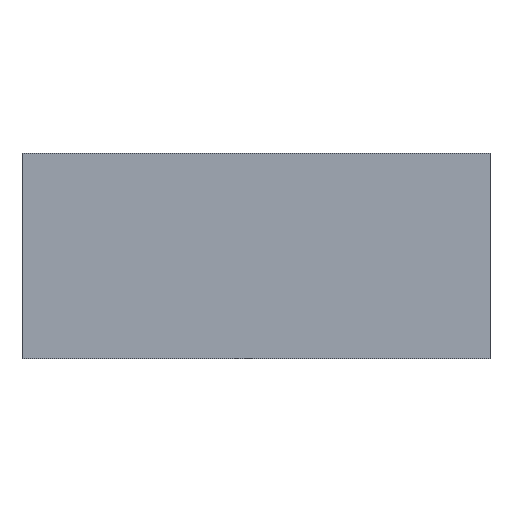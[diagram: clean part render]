
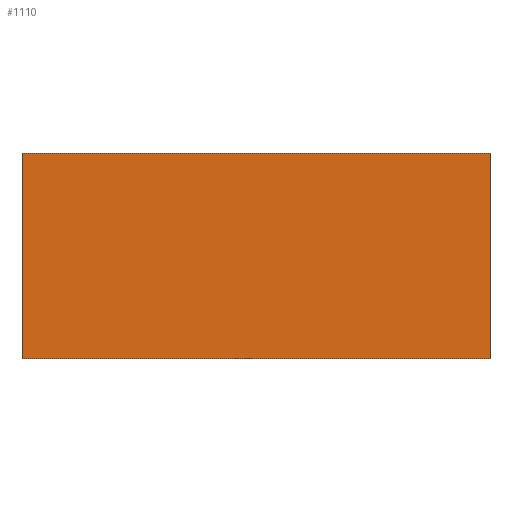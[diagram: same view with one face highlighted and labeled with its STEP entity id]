
A CAD part, front view. The second image highlights one B-rep face of the part: STEP entity #1110.
In plain terms, the highlighted planar face has unit normal (0, -1, 0).
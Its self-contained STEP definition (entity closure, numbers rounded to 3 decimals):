
#32 = PLANE('',#33);
#33 = AXIS2_PLACEMENT_3D('',#34,#35,#36);
#34 = CARTESIAN_POINT('',(-8.5,-5.,-14.));
#35 = DIRECTION('',(1.,0.,-0.));
#36 = DIRECTION('',(0.,0.,1.));
#57 = VERTEX_POINT('',#58);
#58 = CARTESIAN_POINT('',(-8.5,-5.,-11.8));
#72 = PLANE('',#73);
#73 = AXIS2_PLACEMENT_3D('',#74,#75,#76);
#74 = CARTESIAN_POINT('',(-8.5,-5.,-11.8));
#75 = DIRECTION('',(0.,0.,1.));
#76 = DIRECTION('',(1.,0.,-0.));
#84 = EDGE_CURVE('',#85,#57,#87,.T.);
#85 = VERTEX_POINT('',#86);
#86 = CARTESIAN_POINT('',(-8.5,-5.,-14.));
#87 = SURFACE_CURVE('',#88,(#92,#99),.PCURVE_S1.);
#88 = LINE('',#89,#90);
#89 = CARTESIAN_POINT('',(-8.5,-5.,-14.));
#90 = VECTOR('',#91,1.);
#91 = DIRECTION('',(0.,0.,1.));
#92 = PCURVE('',#32,#93);
#93 = DEFINITIONAL_REPRESENTATION('',(#94),#98);
#94 = LINE('',#95,#96);
#95 = CARTESIAN_POINT('',(0.,0.));
#96 = VECTOR('',#97,1.);
#97 = DIRECTION('',(1.,0.));
#98 = ( GEOMETRIC_REPRESENTATION_CONTEXT(2) 
PARAMETRIC_REPRESENTATION_CONTEXT() REPRESENTATION_CONTEXT('2D SPACE',''
  ) );
#99 = PCURVE('',#100,#105);
#100 = PLANE('',#101);
#101 = AXIS2_PLACEMENT_3D('',#102,#103,#104);
#102 = CARTESIAN_POINT('',(-8.5,-5.,-14.));
#103 = DIRECTION('',(-0.,1.,0.));
#104 = DIRECTION('',(0.,0.,1.));
#105 = DEFINITIONAL_REPRESENTATION('',(#106),#110);
#106 = LINE('',#107,#108);
#107 = CARTESIAN_POINT('',(0.,0.));
#108 = VECTOR('',#109,1.);
#109 = DIRECTION('',(1.,0.));
#110 = ( GEOMETRIC_REPRESENTATION_CONTEXT(2) 
PARAMETRIC_REPRESENTATION_CONTEXT() REPRESENTATION_CONTEXT('2D SPACE',''
  ) );
#128 = PLANE('',#129);
#129 = AXIS2_PLACEMENT_3D('',#130,#131,#132);
#130 = CARTESIAN_POINT('',(-8.5,-5.,-14.));
#131 = DIRECTION('',(0.,0.,1.));
#132 = DIRECTION('',(1.,0.,-0.));
#426 = PLANE('',#427);
#427 = AXIS2_PLACEMENT_3D('',#428,#429,#430);
#428 = CARTESIAN_POINT('',(-3.5,-5.,-14.));
#429 = DIRECTION('',(1.,0.,-0.));
#430 = DIRECTION('',(0.,0.,1.));
#997 = EDGE_CURVE('',#85,#998,#1000,.T.);
#998 = VERTEX_POINT('',#999);
#999 = CARTESIAN_POINT('',(-3.5,-5.,-14.));
#1000 = SURFACE_CURVE('',#1001,(#1005,#1012),.PCURVE_S1.);
#1001 = LINE('',#1002,#1003);
#1002 = CARTESIAN_POINT('',(-8.5,-5.,-14.));
#1003 = VECTOR('',#1004,1.);
#1004 = DIRECTION('',(1.,0.,-0.));
#1005 = PCURVE('',#128,#1006);
#1006 = DEFINITIONAL_REPRESENTATION('',(#1007),#1011);
#1007 = LINE('',#1008,#1009);
#1008 = CARTESIAN_POINT('',(0.,0.));
#1009 = VECTOR('',#1010,1.);
#1010 = DIRECTION('',(1.,0.));
#1011 = ( GEOMETRIC_REPRESENTATION_CONTEXT(2) 
PARAMETRIC_REPRESENTATION_CONTEXT() REPRESENTATION_CONTEXT('2D SPACE',''
  ) );
#1012 = PCURVE('',#100,#1013);
#1013 = DEFINITIONAL_REPRESENTATION('',(#1014),#1018);
#1014 = LINE('',#1015,#1016);
#1015 = CARTESIAN_POINT('',(0.,0.));
#1016 = VECTOR('',#1017,1.);
#1017 = DIRECTION('',(0.,1.));
#1018 = ( GEOMETRIC_REPRESENTATION_CONTEXT(2) 
PARAMETRIC_REPRESENTATION_CONTEXT() REPRESENTATION_CONTEXT('2D SPACE',''
  ) );
#1110 = ADVANCED_FACE('',(#1111),#100,.F.);
#1111 = FACE_BOUND('',#1112,.F.);
#1112 = EDGE_LOOP('',(#1113,#1114,#1115,#1138));
#1113 = ORIENTED_EDGE('',*,*,#997,.F.);
#1114 = ORIENTED_EDGE('',*,*,#84,.T.);
#1115 = ORIENTED_EDGE('',*,*,#1116,.T.);
#1116 = EDGE_CURVE('',#57,#1117,#1119,.T.);
#1117 = VERTEX_POINT('',#1118);
#1118 = CARTESIAN_POINT('',(-3.5,-5.,-11.8));
#1119 = SURFACE_CURVE('',#1120,(#1124,#1131),.PCURVE_S1.);
#1120 = LINE('',#1121,#1122);
#1121 = CARTESIAN_POINT('',(-8.5,-5.,-11.8));
#1122 = VECTOR('',#1123,1.);
#1123 = DIRECTION('',(1.,0.,-0.));
#1124 = PCURVE('',#100,#1125);
#1125 = DEFINITIONAL_REPRESENTATION('',(#1126),#1130);
#1126 = LINE('',#1127,#1128);
#1127 = CARTESIAN_POINT('',(2.2,0.));
#1128 = VECTOR('',#1129,1.);
#1129 = DIRECTION('',(0.,1.));
#1130 = ( GEOMETRIC_REPRESENTATION_CONTEXT(2) 
PARAMETRIC_REPRESENTATION_CONTEXT() REPRESENTATION_CONTEXT('2D SPACE',''
  ) );
#1131 = PCURVE('',#72,#1132);
#1132 = DEFINITIONAL_REPRESENTATION('',(#1133),#1137);
#1133 = LINE('',#1134,#1135);
#1134 = CARTESIAN_POINT('',(0.,0.));
#1135 = VECTOR('',#1136,1.);
#1136 = DIRECTION('',(1.,0.));
#1137 = ( GEOMETRIC_REPRESENTATION_CONTEXT(2) 
PARAMETRIC_REPRESENTATION_CONTEXT() REPRESENTATION_CONTEXT('2D SPACE',''
  ) );
#1138 = ORIENTED_EDGE('',*,*,#1139,.F.);
#1139 = EDGE_CURVE('',#998,#1117,#1140,.T.);
#1140 = SURFACE_CURVE('',#1141,(#1145,#1152),.PCURVE_S1.);
#1141 = LINE('',#1142,#1143);
#1142 = CARTESIAN_POINT('',(-3.5,-5.,-14.));
#1143 = VECTOR('',#1144,1.);
#1144 = DIRECTION('',(0.,0.,1.));
#1145 = PCURVE('',#100,#1146);
#1146 = DEFINITIONAL_REPRESENTATION('',(#1147),#1151);
#1147 = LINE('',#1148,#1149);
#1148 = CARTESIAN_POINT('',(0.,5.));
#1149 = VECTOR('',#1150,1.);
#1150 = DIRECTION('',(1.,0.));
#1151 = ( GEOMETRIC_REPRESENTATION_CONTEXT(2) 
PARAMETRIC_REPRESENTATION_CONTEXT() REPRESENTATION_CONTEXT('2D SPACE',''
  ) );
#1152 = PCURVE('',#426,#1153);
#1153 = DEFINITIONAL_REPRESENTATION('',(#1154),#1158);
#1154 = LINE('',#1155,#1156);
#1155 = CARTESIAN_POINT('',(0.,0.));
#1156 = VECTOR('',#1157,1.);
#1157 = DIRECTION('',(1.,0.));
#1158 = ( GEOMETRIC_REPRESENTATION_CONTEXT(2) 
PARAMETRIC_REPRESENTATION_CONTEXT() REPRESENTATION_CONTEXT('2D SPACE',''
  ) );
